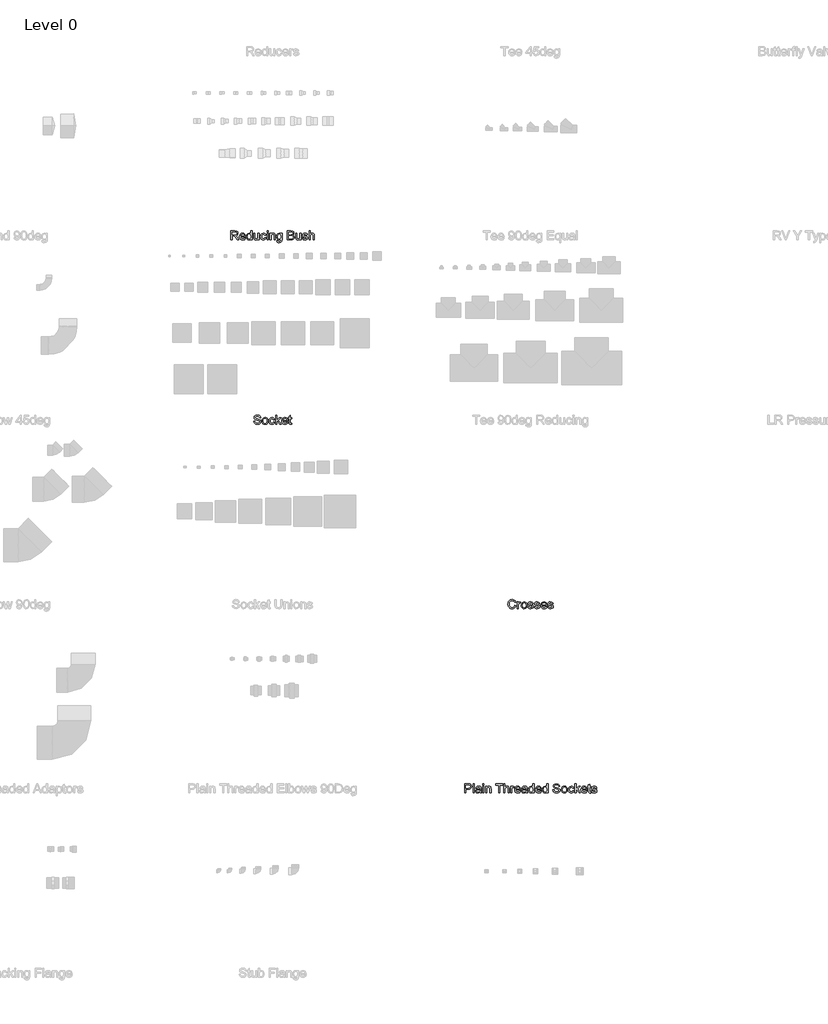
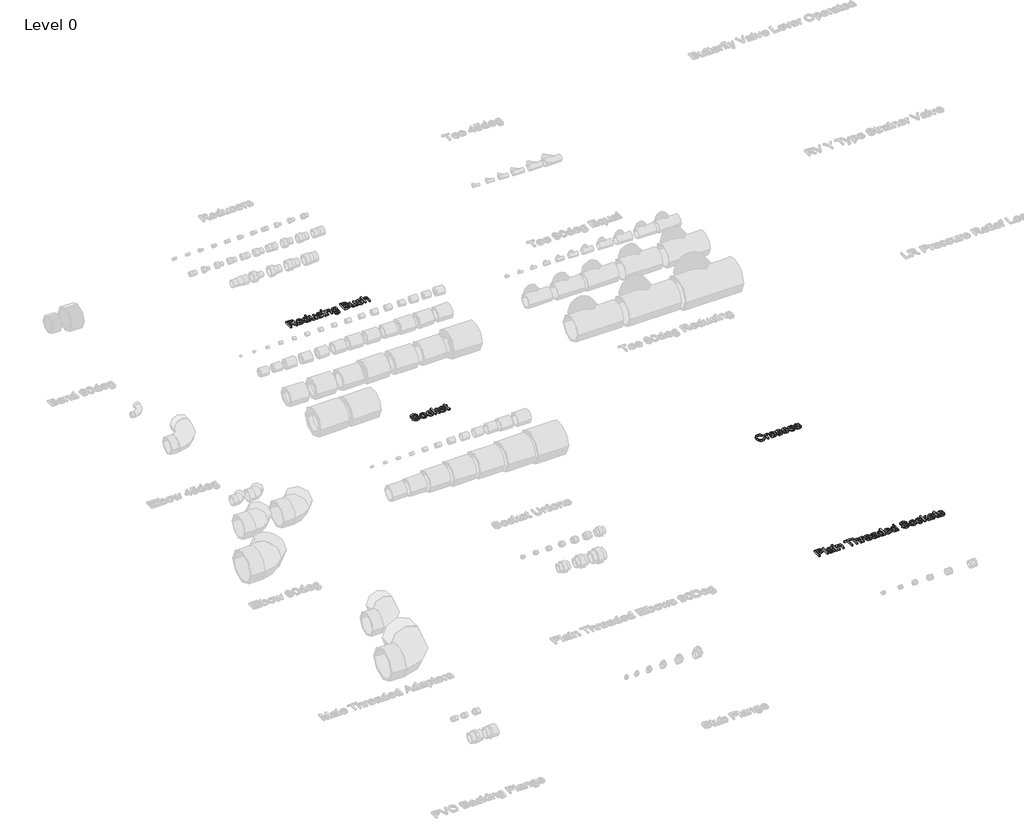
# One storey, part 7 of 12: 4 proxies.
"""IFC4 building model written with IfcOpenShell, lengths in millimetres."""

import ifcopenshell
import ifcopenshell.guid

model = None  # the IFC model being written
_history = None  # IfcOwnerHistory: only IFC2X3 demands one
_inside = {}  # id of a spatial element -> (the spatial element, [elements in it])
_under = {}  # id of a project, library or spatial element -> (it, [spatial elements below it])
_declared = {}  # id of a project -> (the project, [libraries it declares])
_typed = {}  # id of a type object -> (the type object, [elements of that type])
_made_of = {}  # id of a material, layer set ... -> (it, [elements and type objects made of it])


def new_model(schema):
    """Start an empty IFC model of exactly this schema.

    Asked for "IFC4X3", IfcOpenShell would pick the latest addendum, in which some entities
    have other attributes; the version numbers below select the first issue.
    IFC2X3 requires an IfcOwnerHistory on every rooted entity: one is made here for all.
    """
    global model, _history
    if schema == "IFC4X3":
        model = ifcopenshell.file(schema_version=(4, 3, 0, 0))
    else:
        model = ifcopenshell.file(schema=schema)
    _inside.clear()
    _under.clear()
    _declared.clear()
    _typed.clear()
    _made_of.clear()
    _history = None
    if model.schema == "IFC2X3":
        org = make("IfcOrganization", Name="unknown")
        user = make(
            "IfcPersonAndOrganization",
            ThePerson=make("IfcPerson", FamilyName="unknown"),
            TheOrganization=org,
        )
        app = make(
            "IfcApplication",
            ApplicationDeveloper=org,
            Version="unknown",
            ApplicationFullName="unknown",
            ApplicationIdentifier="unknown",
        )
        _history = make(
            "IfcOwnerHistory",
            OwningUser=user,
            OwningApplication=app,
            ChangeAction="ADDED",
            CreationDate=0,
        )
    return model


def make(cls, **values):
    """One entity of the class cls with the attributes given. An attribute that is None is left unset."""
    return model.create_entity(
        cls, **{name: value for name, value in values.items() if value is not None}
    )


def rooted(cls, **values):
    """An entity with a GlobalId (a new one), such as an element, a storey or a relation."""
    return make(cls, GlobalId=ifcopenshell.guid.new(), OwnerHistory=_history, **values)


def si_unit(unit_type, name, prefix=None):
    """IfcSIUnit, for example si_unit("LENGTHUNIT", "METRE", prefix="MILLI")."""
    return make("IfcSIUnit", UnitType=unit_type, Prefix=prefix, Name=name)


def assignment(units):
    """IfcUnitAssignment: the units of a project."""
    return None if units is None else make("IfcUnitAssignment", Units=units)


def point(xyz):
    """IfcCartesianPoint."""
    return None if xyz is None else make("IfcCartesianPoint", Coordinates=xyz)


def direction(xyz):
    """IfcDirection."""
    return None if xyz is None else make("IfcDirection", DirectionRatios=xyz)


def frame(location, z_axis=None, x_axis=None):
    """IfcAxis2Placement3D, a coordinate frame: its origin and axes. An axis left out is left unset."""
    return make(
        "IfcAxis2Placement3D",
        Location=point(location),
        Axis=direction(z_axis),
        RefDirection=direction(x_axis),
    )


def origin():
    """The frame at (0, 0, 0) with its axes left unset."""
    return frame((0.0, 0.0, 0.0))


def origin_with_axes():
    """The frame at (0, 0, 0) with the z axis (0, 0, 1) and the x axis (1, 0, 0) written out."""
    return frame((0.0, 0.0, 0.0), z_axis=(0.0, 0.0, 1.0), x_axis=(1.0, 0.0, 0.0))


def place(relative_to, where):
    """IfcLocalPlacement: puts the frame where relative to a parent placement (None: the world)."""
    return make(
        "IfcLocalPlacement", PlacementRelTo=relative_to, RelativePlacement=where
    )


def context(
    kind, dimensions, precision=None, world=None, true_north=None, identifier=None
):
    """IfcGeometricRepresentationContext, for example the 3D "Model" context."""
    return make(
        "IfcGeometricRepresentationContext",
        ContextIdentifier=identifier,
        ContextType=kind,
        CoordinateSpaceDimension=dimensions,
        Precision=precision,
        WorldCoordinateSystem=world,
        TrueNorth=true_north,
    )


def project(units=None, contexts=None):
    """IfcProject with its units and contexts."""
    return rooted(
        "IfcProject",
        Name="project",
        RepresentationContexts=contexts,
        UnitsInContext=assignment(units),
    )


def spatial(cls, under=None, at=None, **own):
    """A site, building, storey or space (cls), placed at a placement, below another one or the project."""
    s = rooted(cls, ObjectPlacement=at, **own)
    if under is not None:
        _under.setdefault(under.id(), (under, []))[1].append(s)
    return s


def polyline(points):
    """IfcPolyline through the points."""
    return make("IfcPolyline", Points=[point(p) for p in points])


def outline(outer, holes=None, kind="AREA"):
    """IfcArbitraryClosedProfileDef: a profile drawn as a closed curve; with holes, ...WithVoids."""
    if holes is None:
        return make("IfcArbitraryClosedProfileDef", ProfileType=kind, OuterCurve=outer)
    return make(
        "IfcArbitraryProfileDefWithVoids",
        ProfileType=kind,
        OuterCurve=outer,
        InnerCurves=holes,
    )


def extrude(swept, where, along, depth):
    """IfcExtrudedAreaSolid: the profile swept, set in the frame where, extruded along a direction by depth."""
    return make(
        "IfcExtrudedAreaSolid",
        SweptArea=swept,
        Position=where,
        ExtrudedDirection=direction(along),
        Depth=depth,
    )


def shape(context_of_items, identifier, shape_type, items):
    """IfcShapeRepresentation: the items that make up one representation, for example the "Body"."""
    return make(
        "IfcShapeRepresentation",
        ContextOfItems=context_of_items,
        RepresentationIdentifier=identifier,
        RepresentationType=shape_type,
        Items=items,
    )


def made_of(thing, what):
    """Note that an element or type object is made of a material, layer set ...; save() writes the relation."""
    if what is not None:
        _made_of.setdefault(what.id(), (what, []))[1].append(thing)
    return thing


def element(
    cls,
    number,
    at=None,
    inside=None,
    cuts=None,
    type_object=None,
    material=None,
    context=None,
    identifier="Body",
    shape_type=None,
    held_by="IfcProductDefinitionShape",
    body=None,
    shapes=None,
    **own,
):
    """One element of the class cls, such as IfcWall. Its Tag is "e" and its number.

    at: its placement. inside: the storey or other place that contains it. cuts: it is an
    opening in that element (IfcRelVoidsElement). A single representation is given by context,
    identifier, shape_type and body (its items); several are given by shapes. held_by: the class
    of the entity that holds the representations. save() writes the other relations.
    """
    e = rooted(cls, Tag="e%d" % number, ObjectPlacement=at, **own)
    if body is not None:
        shapes = [shape(context, identifier, shape_type, body)]
    if shapes is not None:
        e.Representation = make(held_by, Representations=shapes)
    if inside is not None:
        _inside.setdefault(inside.id(), (inside, []))[1].append(e)
    if cuts is not None:
        rooted(
            "IfcRelVoidsElement", RelatingBuildingElement=cuts, RelatedOpeningElement=e
        )
    if type_object is not None:
        _typed.setdefault(type_object.id(), (type_object, []))[1].append(e)
    return made_of(e, material)


def aggregate(whole, parts):
    """IfcRelAggregates: a whole, such as a stair, and the parts it consists of."""
    return rooted("IfcRelAggregates", RelatingObject=whole, RelatedObjects=parts)


def save(model, path):
    """Write the relations noted so far, then the file.

    IfcRelAggregates (storeys below a building ...), IfcRelContainedInSpatialStructure (elements
    in a storey), IfcRelDefinesByType, IfcRelAssociatesMaterial and IfcRelDeclares: one each for
    every whole, place, type object, material and project.
    """
    for whole, parts in _under.values():
        aggregate(whole, parts)
    for where, things in _inside.values():
        rooted(
            "IfcRelContainedInSpatialStructure",
            RelatedElements=things,
            RelatingStructure=where,
        )
    for kind, things in _typed.values():
        rooted("IfcRelDefinesByType", RelatedObjects=things, RelatingType=kind)
    for what, things in _made_of.values():
        rooted("IfcRelAssociatesMaterial", RelatedObjects=things, RelatingMaterial=what)
    for by, libraries in _declared.values():
        rooted("IfcRelDeclares", RelatingContext=by, RelatedDefinitions=libraries)
    model.write(path)


model = new_model("IFC4")

# Units and contexts
model_context = context("Model", 3, world=origin())
ifc_project = project(units=[si_unit("LENGTHUNIT", "METRE", prefix="MILLI")], contexts=[model_context])

# Site, building, storey
site = spatial("IfcSite", under=ifc_project)
building = spatial("IfcBuilding", under=site)
storey = spatial("IfcBuildingStorey", under=building, Name="Level 0", Elevation=0.0)

# Proxies
placement = place(None, origin())
element("IfcBuildingElementProxy", 1, Name="150mm Arial", ObjectType="150mm Arial", at=placement, inside=storey, context=model_context, shape_type="SweptSolid", body=[
    extrude(outline(polyline([(-13888.7361766, 6945.7253457), (-13888.7361766, 7044.1868842), (-13846.3082919, 7044.1868842), (-13826.6087727, 7041.5306342), (-13815.8395419, 7032.1315957), (-13811.8130996, 7017.2397688), (-13813.4807679, 7007.5402496), (-13818.4837727, 6999.4993842), (-13826.9723544, 6993.6039515), (-13839.0967535, 6990.3407304), (-13832.1015612, 6985.0763073), (-13822.1255996, 6972.408038), (-13805.7073304, 6945.7253457), (-13820.010215, 6945.7253457), (-13832.822715, 6966.1339996), (-13842.0775227, 6979.643615), (-13848.5799266, 6986.0258265), (-13854.4332919, 6988.3695765), (-13861.572715, 6988.8022688), (-13876.4284843, 6988.8022688), (-13876.4284843, 6945.7253457), (-13888.7361766, 6945.7253457)]), holes=[polyline([(-13876.4284843, 7001.1099611), (-13848.8804073, 7001.1099611), (-13834.8299266, 7002.8527496), (-13826.8491573, 7008.4296727), (-13824.1207919, 7016.783038), (-13829.3251189, 7027.6243842), (-13845.7794458, 7031.8791919), (-13876.4284843, 7031.8791919), (-13876.4284843, 7001.1099611)])]), origin_with_axes(), (0.0, 0.0, 1.0), 15.0),
    extrude(outline(polyline([(-13741.1880996, 6967.2638073), (-13729.1207919, 6965.7253457), (-13733.4687487, 6956.6327977), (-13740.4068496, 6949.8359227), (-13749.7788448, 6945.5991438), (-13761.4284843, 6944.1868842), (-13775.86959, 6946.6237832), (-13786.9813689, 6953.9344804), (-13794.0667054, 6965.6442159), (-13796.4284843, 6981.2782304), (-13794.0426669, 6997.4380861), (-13786.885215, 7009.5234227), (-13775.9236766, 7017.0594804), (-13762.1255996, 7019.5714996), (-13748.7572102, 7017.06549), (-13738.0751189, 7009.5474611), (-13731.0709121, 6997.486163), (-13728.7361766, 6981.3503457), (-13728.8082919, 6978.033038), (-13784.1207919, 6978.033038), (-13781.9903833, 6968.8202977), (-13777.041465, 6962.0474611), (-13761.1880996, 6956.4945765), (-13749.1207919, 6959.0666919), (-13741.1880996, 6967.2638073)]), holes=[polyline([(-13784.1207919, 6990.3407304), (-13741.0438689, 6990.3407304), (-13745.9717535, 7001.4945765), (-13753.1472343, 7005.8214996), (-13762.1736766, 7007.2638073), (-13777.3299266, 7002.6604419), (-13784.1207919, 6990.3407304)])]), origin_with_axes(), (0.0, 0.0, 1.0), 15.0),
    extrude(outline(polyline([(-13671.8130996, 6945.7253457), (-13671.8130996, 6957.3359227), (-13679.9561285, 6947.4741438), (-13691.2121381, 6944.1868842), (-13706.4525227, 6948.9464996), (-13717.2217535, 6962.2277496), (-13721.0438689, 6981.8070765), (-13717.5222343, 7001.3984227), (-13706.9693496, 7014.8839996), (-13691.260215, 7019.5714996), (-13679.9140612, 7016.2181342), (-13671.8130996, 7007.5041919), (-13671.8130996, 7044.1868842), (-13659.5054073, 7044.1868842), (-13659.5054073, 6945.7253457), (-13671.8130996, 6945.7253457)]), holes=[polyline([(-13708.7361766, 6981.8551534), (-13707.3479554, 6970.7223409), (-13703.1832919, 6962.8046727), (-13697.1316093, 6958.0721005), (-13690.0823304, 6956.4945765), (-13683.0360564, 6957.9999852), (-13677.1376189, 6962.5162111), (-13673.1442294, 6970.127389), (-13671.8130996, 6980.9176534), (-13673.1682679, 6992.7145284), (-13677.2337727, 7000.893615), (-13683.2824506, 7005.6712592), (-13690.5871381, 7007.2638073), (-13697.7085323, 7005.7343602), (-13703.5438689, 7001.1460188), (-13707.4380996, 6993.2644082), (-13708.7361766, 6981.8551534)])]), origin_with_axes(), (0.0, 0.0, 1.0), 15.0),
    extrude(outline(polyline([(-13594.8900227, 6945.7253457), (-13594.8900227, 6958.1532304), (-13604.5294458, 6947.6784707), (-13617.1015612, 6944.1868842), (-13628.6760804, 6946.6388073), (-13636.6568496, 6952.7926534), (-13640.322715, 6961.8551534), (-13641.0438689, 6973.2974611), (-13641.0438689, 7018.033038), (-13628.7361766, 7018.033038), (-13628.7361766, 6979.0907304), (-13627.9909843, 6966.5426534), (-13623.1231958, 6959.174865), (-13613.9525227, 6956.4945765), (-13603.6760804, 6959.2349611), (-13596.885215, 6966.6989034), (-13594.8900227, 6980.4128457), (-13594.8900227, 7018.033038), (-13582.5823304, 7018.033038), (-13582.5823304, 6945.7253457), (-13594.8900227, 6945.7253457)])), origin_with_axes(), (0.0, 0.0, 1.0), 15.0),
    extrude(outline(polyline([(-13519.5054073, 6971.8791919), (-13507.197715, 6970.3407304), (-13510.6292054, 6959.3942159), (-13517.0775227, 6951.1219804), (-13525.9356958, 6945.9206582), (-13536.5967535, 6944.1868842), (-13549.6887006, 6946.6057544), (-13559.9260804, 6953.862365), (-13566.5336525, 6965.6382063), (-13568.7361766, 6981.6147688), (-13564.9741573, 7002.0594804), (-13553.5078112, 7015.1964996), (-13536.7650227, 7019.5714996), (-13526.3653833, 7018.0690957), (-13518.0510804, 7013.5618842), (-13512.0865371, 7006.2902496), (-13508.7361766, 6996.4945765), (-13521.0438689, 6994.956115), (-13526.7530035, 7004.174865), (-13536.6688689, 7007.2638073), (-13544.6225948, 7005.7433746), (-13550.9356958, 7001.1820765), (-13555.0552871, 6993.3335188), (-13556.4284843, 6981.9513073), (-13555.0853352, 6970.4158505), (-13551.0558881, 6962.5402496), (-13544.8569698, 6958.0059948), (-13537.0054073, 6956.4945765), (-13525.4068496, 6960.268615), (-13519.5054073, 6971.8791919)])), origin_with_axes(), (0.0, 0.0, 1.0), 15.0),
    extrude(outline(polyline([(-13496.4284843, 7031.8791919), (-13496.4284843, 7044.1868842), (-13484.1207919, 7044.1868842), (-13484.1207919, 7031.8791919), (-13496.4284843, 7031.8791919)])), origin_with_axes(), (0.0, 0.0, 1.0), 15.0),
    extrude(outline(polyline([(-13496.4284843, 6945.7253457), (-13496.4284843, 7018.033038), (-13484.1207919, 7018.033038), (-13484.1207919, 6945.7253457), (-13496.4284843, 6945.7253457)])), origin_with_axes(), (0.0, 0.0, 1.0), 15.0),
    extrude(outline(polyline([(-13465.6592535, 6945.7253457), (-13465.6592535, 7018.033038), (-13453.3515612, 7018.033038), (-13453.3515612, 7007.9368842), (-13443.9405035, 7016.6628457), (-13431.0919458, 7019.5714996), (-13419.4693496, 7017.2277496), (-13411.5366573, 7011.0739034), (-13407.8467535, 7002.0234227), (-13407.197715, 6990.1243842), (-13407.197715, 6945.7253457), (-13419.5054073, 6945.7253457), (-13419.5054073, 6988.4657304), (-13420.9236766, 6999.3551534), (-13425.9356958, 7005.112365), (-13434.385215, 7007.2638073), (-13447.7385804, 7002.4320765), (-13451.948316, 6995.4308746), (-13453.3515612, 6984.0907304), (-13453.3515612, 6945.7253457), (-13465.6592535, 6945.7253457)])), origin_with_axes(), (0.0, 0.0, 1.0), 15.0),
    extrude(outline(polyline([(-13393.3515612, 6939.5714996), (-13381.0438689, 6938.033038), (-13377.0534843, 6931.5426534), (-13365.1063689, 6928.8022688), (-13352.510215, 6931.9032304), (-13346.5005996, 6940.6051534), (-13345.6592535, 6954.956115), (-13354.3251189, 6948.033038), (-13364.8900227, 6945.7253457), (-13377.5793256, 6948.4116438), (-13387.041465, 6956.470538), (-13392.9278833, 6968.2854419), (-13394.8900227, 6982.2397688), (-13391.3683881, 7001.314288), (-13381.1760804, 7014.8118842), (-13365.4909843, 7019.5714996), (-13354.5114169, 7016.8791919), (-13345.6592535, 7008.8022688), (-13345.6592535, 7018.033038), (-13333.3515612, 7018.033038), (-13333.3515612, 6955.6051534), (-13336.7169458, 6931.6989034), (-13347.3780035, 6920.581115), (-13365.3467535, 6916.4945765), (-13376.7980756, 6917.9338794), (-13385.8155035, 6922.251788), (-13391.5997583, 6929.4603217), (-13393.3515612, 6939.5714996)]), holes=[polyline([(-13382.5823304, 6983.081115), (-13381.2692294, 6971.7920525), (-13377.3299266, 6964.0306342), (-13371.4074506, 6959.5324371), (-13364.1448304, 6958.033038), (-13356.9362968, 6959.5234227), (-13350.9837727, 6963.9945765), (-13346.9903833, 6971.6568361), (-13345.6592535, 6982.720538), (-13347.0294458, 6993.3906102), (-13351.1400227, 7001.0739034), (-13357.1796862, 7005.7163313), (-13364.3371381, 7007.2638073), (-13371.3653833, 7005.7403698), (-13377.2578112, 7001.1700573), (-13381.2512006, 6993.6009467), (-13382.5823304, 6983.081115)])]), origin_with_axes(), (0.0, 0.0, 1.0), 15.0),
    extrude(outline(polyline([(-13274.8900227, 6945.7253457), (-13274.8900227, 7044.1868842), (-13237.3179073, 7044.1868842), (-13218.916465, 7041.2902496), (-13208.0510804, 7032.3839996), (-13204.1207919, 7019.7878457), (-13207.4260804, 7008.2854419), (-13217.4140612, 6999.5714996), (-13205.2866573, 6990.3888073), (-13201.0438689, 6975.0763073), (-13203.9405035, 6961.8431342), (-13211.1159843, 6952.4200573), (-13221.8251189, 6947.4200573), (-13237.6063689, 6945.7253457), (-13274.8900227, 6945.7253457)]), holes=[polyline([(-13262.5823304, 7004.1868842), (-13240.1063689, 7004.1868842), (-13226.9813689, 7005.2445765), (-13219.0847343, 7009.799865), (-13216.4284843, 7017.8166919), (-13218.9044458, 7025.845538), (-13225.9957919, 7030.5931342), (-13241.8130996, 7031.8791919), (-13262.5823304, 7031.8791919), (-13262.5823304, 7004.1868842)]), polyline([(-13262.5823304, 6958.033038), (-13237.3419458, 6958.033038), (-13228.2073304, 6958.5138073), (-13220.478965, 6961.1940957), (-13215.3587727, 6966.6628457), (-13213.3515612, 6974.956115), (-13215.7073304, 6984.5234227), (-13223.3395419, 6990.2325573), (-13238.5438689, 6991.8791919), (-13262.5823304, 6991.8791919), (-13262.5823304, 6958.033038)])]), origin_with_axes(), (0.0, 0.0, 1.0), 15.0),
    extrude(outline(polyline([(-13139.5054073, 6945.7253457), (-13139.5054073, 6958.1532304), (-13149.1448304, 6947.6784707), (-13161.7169458, 6944.1868842), (-13173.291465, 6946.6388073), (-13181.2722343, 6952.7926534), (-13184.9380996, 6961.8551534), (-13185.6592535, 6973.2974611), (-13185.6592535, 7018.033038), (-13173.3515612, 7018.033038), (-13173.3515612, 6979.0907304), (-13172.6063689, 6966.5426534), (-13167.7385804, 6959.174865), (-13158.5679073, 6956.4945765), (-13148.291465, 6959.2349611), (-13141.5005996, 6966.6989034), (-13139.5054073, 6980.4128457), (-13139.5054073, 7018.033038), (-13127.197715, 7018.033038), (-13127.197715, 6945.7253457), (-13139.5054073, 6945.7253457)])), origin_with_axes(), (0.0, 0.0, 1.0), 15.0),
    extrude(outline(polyline([(-13114.8900227, 6967.2638073), (-13102.5823304, 6968.8022688), (-13096.885215, 6959.6676534), (-13083.8323304, 6956.4945765), (-13071.2842535, 6959.4032304), (-13067.197715, 6966.2301534), (-13071.3082919, 6971.7589996), (-13083.9765612, 6975.268615), (-13102.510215, 6981.2902496), (-13110.5991573, 6988.3214996), (-13113.3515612, 6998.2493842), (-13111.1400227, 7007.4200573), (-13105.1063689, 7014.4272688), (-13097.2818496, 7018.0690957), (-13086.6929073, 7019.5714996), (-13071.7169458, 7017.1556342), (-13062.197715, 7010.6171727), (-13057.9669458, 6999.5714996), (-13070.2746381, 6998.033038), (-13074.9020419, 7004.8239034), (-13085.7313689, 7007.2638073), (-13097.510215, 7004.9320765), (-13101.0438689, 6999.4993842), (-13099.5775227, 6995.9176534), (-13094.9861766, 6993.2013073), (-13084.385215, 6990.581115), (-13066.3203112, 6984.7878457), (-13057.9308881, 6978.2253457), (-13054.8900227, 6967.5282304), (-13058.4597343, 6955.7493842), (-13068.760215, 6947.2037111), (-13084.0005996, 6944.1868842), (-13096.4104554, 6945.6412111), (-13105.4669458, 6950.0041919), (-13111.5126189, 6957.2277496), (-13114.8900227, 6967.2638073)])), origin_with_axes(), (0.0, 0.0, 1.0), 15.0),
    extrude(outline(polyline([(-13041.0438689, 6945.7253457), (-13041.0438689, 7044.1868842), (-13028.7361766, 7044.1868842), (-13028.7361766, 7007.9849611), (-13019.1388208, 7016.674865), (-13007.3179073, 7019.5714996), (-12993.4957919, 7016.4104419), (-12985.1063689, 7007.6724611), (-12982.5823304, 6991.4945765), (-12982.5823304, 6945.7253457), (-12994.8900227, 6945.7253457), (-12994.8900227, 6990.220538), (-12998.8082919, 7003.2013073), (-13009.9140612, 7007.2638073), (-13019.9981958, 7004.5234227), (-13026.728965, 6997.095538), (-13028.7361766, 6984.1388073), (-13028.7361766, 6945.7253457), (-13041.0438689, 6945.7253457)])), origin_with_axes(), (0.0, 0.0, 1.0), 15.0),
])
element("IfcBuildingElementProxy", 2, Name="150mm Arial", ObjectType="150mm Arial", at=placement, inside=storey, context=model_context, shape_type="SweptSolid", body=[
    extrude(outline(polyline([(-13640.2746381, 4979.5714996), (-13627.9669458, 4979.5714996), (-13624.0005996, 4967.251788), (-13614.3130996, 4959.4633265), (-13599.5534843, 4956.4945765), (-13586.6929073, 4958.7421727), (-13578.3876189, 4964.9200573), (-13575.6592535, 4973.1772688), (-13577.7025227, 4980.8575573), (-13586.0679073, 4986.4464996), (-13603.9885804, 4991.1460188), (-13623.2794458, 4997.2157304), (-13633.7481958, 5006.3743842), (-13637.197715, 5018.6099611), (-13632.9308881, 5032.5402496), (-13620.4669458, 5042.3719804), (-13602.2217535, 5045.7253457), (-13582.7505996, 5042.2157304), (-13569.7698304, 5031.9032304), (-13564.8900227, 5016.4945765), (-13577.197715, 5016.4945765), (-13584.1688689, 5029.1388073), (-13601.7409843, 5033.4176534), (-13619.3611766, 5029.1868842), (-13624.8900227, 5018.970538), (-13620.9717535, 5010.4368842), (-13600.8755996, 5003.5618842), (-13579.0967535, 4997.3839996), (-13567.1856958, 4987.408038), (-13563.3515612, 4973.4897688), (-13567.7626189, 4958.7662111), (-13580.4549266, 4948.0210188), (-13599.072715, 4944.1868842), (-13621.0558881, 4948.3214996), (-13634.9621381, 4960.7734227), (-13640.2746381, 4979.5714996)])), origin_with_axes(), (0.0, 0.0, 1.0), 15.0),
    extrude(outline(polyline([(-13549.5054073, 4981.8791919), (-13546.8431477, 4999.3130861), (-13538.8563689, 5011.5666919), (-13528.9885804, 5017.5702977), (-13517.1736766, 5019.5714996), (-13504.2439891, 5017.1346005), (-13493.916465, 5009.8239034), (-13487.1466333, 4998.2163313), (-13484.8900227, 4982.8888073), (-13488.8804073, 4960.9897688), (-13500.5030035, 4948.5979419), (-13517.1736766, 4944.1868842), (-13530.2596141, 4946.6147688), (-13540.5751189, 4953.8984227), (-13547.2728352, 4965.7493842), (-13549.5054073, 4981.8791919)]), holes=[polyline([(-13537.197715, 4981.9032304), (-13535.7734362, 4970.7644082), (-13531.5005996, 4962.8287111), (-13525.0703112, 4958.0781102), (-13517.1736766, 4956.4945765), (-13509.3130996, 4958.0871246), (-13502.8948304, 4962.8647688), (-13498.6219939, 4970.9056342), (-13497.197715, 4982.2878457), (-13498.6310083, 4993.1021486), (-13502.9308881, 5000.9296727), (-13509.3581718, 5005.6802736), (-13517.1736766, 5007.2638073), (-13525.0703112, 5005.6862832), (-13531.5005996, 5000.9537111), (-13535.7734362, 4993.0360429), (-13537.197715, 4981.9032304)])]), origin_with_axes(), (0.0, 0.0, 1.0), 15.0),
    extrude(outline(polyline([(-13424.8900227, 4971.8791919), (-13412.5823304, 4970.3407304), (-13416.0138208, 4959.3942159), (-13422.4621381, 4951.1219804), (-13431.3203112, 4945.9206582), (-13441.9813689, 4944.1868842), (-13455.073316, 4946.6057544), (-13465.3106958, 4953.862365), (-13471.9182679, 4965.6382063), (-13474.1207919, 4981.6147688), (-13470.3587727, 5002.0594804), (-13458.8924266, 5015.1964996), (-13442.1496381, 5019.5714996), (-13431.7499987, 5018.0690957), (-13423.4356958, 5013.5618842), (-13417.4711525, 5006.2902496), (-13414.1207919, 4996.4945765), (-13426.4284843, 4994.956115), (-13432.1376189, 5004.174865), (-13442.0534843, 5007.2638073), (-13450.0072102, 5005.7433746), (-13456.3203112, 5001.1820765), (-13460.4399025, 4993.3335188), (-13461.8130996, 4981.9513073), (-13460.4699506, 4970.4158505), (-13456.4405035, 4962.5402496), (-13450.2415852, 4958.0059948), (-13442.3900227, 4956.4945765), (-13430.791465, 4960.268615), (-13424.8900227, 4971.8791919)])), origin_with_axes(), (0.0, 0.0, 1.0), 15.0),
    extrude(outline(polyline([(-13401.8130996, 4945.7253457), (-13401.8130996, 5044.1868842), (-13389.5054073, 5044.1868842), (-13389.5054073, 4991.2782304), (-13361.9092535, 5018.033038), (-13344.8900227, 5018.033038), (-13372.822715, 4990.9416919), (-13343.3515612, 4945.7253457), (-13357.7265612, 4945.7253457), (-13381.6448304, 4982.3839996), (-13389.5054073, 4974.7638073), (-13389.5054073, 4945.7253457), (-13401.8130996, 4945.7253457)])), origin_with_axes(), (0.0, 0.0, 1.0), 15.0),
    extrude(outline(polyline([(-13281.9573304, 4967.2638073), (-13269.8900227, 4965.7253457), (-13274.2379794, 4956.6327977), (-13281.1760804, 4949.8359227), (-13290.5480756, 4945.5991438), (-13302.197715, 4944.1868842), (-13316.6388208, 4946.6237832), (-13327.7505996, 4953.9344804), (-13334.8359362, 4965.6442159), (-13337.197715, 4981.2782304), (-13334.8118977, 4997.4380861), (-13327.6544458, 5009.5234227), (-13316.6929073, 5017.0594804), (-13302.8948304, 5019.5714996), (-13289.526441, 5017.06549), (-13278.8443496, 5009.5474611), (-13271.8401429, 4997.486163), (-13269.5054073, 4981.3503457), (-13269.5775227, 4978.033038), (-13324.8900227, 4978.033038), (-13322.7596141, 4968.8202977), (-13317.8106958, 4962.0474611), (-13301.9573304, 4956.4945765), (-13289.8900227, 4959.0666919), (-13281.9573304, 4967.2638073)]), holes=[polyline([(-13324.8900227, 4990.3407304), (-13281.8130996, 4990.3407304), (-13286.7409843, 5001.4945765), (-13293.916465, 5005.8214996), (-13302.9429073, 5007.2638073), (-13318.0991573, 5002.6604419), (-13324.8900227, 4990.3407304)])]), origin_with_axes(), (0.0, 0.0, 1.0), 15.0),
    extrude(outline(polyline([(-13231.0438689, 4955.9897688), (-13229.5054073, 4945.3647688), (-13238.7121381, 4944.1868842), (-13249.0246381, 4946.2301534), (-13254.1688689, 4951.5907304), (-13255.6592535, 4965.5570765), (-13255.6592535, 5005.7253457), (-13264.8900227, 5005.7253457), (-13264.8900227, 5018.033038), (-13255.6592535, 5018.033038), (-13255.6592535, 5035.6051534), (-13243.3515612, 5042.8407304), (-13243.3515612, 5018.033038), (-13231.0438689, 5018.033038), (-13231.0438689, 5005.7253457), (-13243.3515612, 5005.7253457), (-13243.3515612, 4965.9176534), (-13242.7025227, 4959.5714996), (-13240.5991573, 4957.3239034), (-13236.4044458, 4956.4945765), (-13231.0438689, 4955.9897688)])), origin_with_axes(), (0.0, 0.0, 1.0), 15.0),
])
element("IfcBuildingElementProxy", 3, Name="150mm Arial", ObjectType="150mm Arial", at=placement, inside=storey, context=model_context, shape_type="SweptSolid", body=[
    extrude(outline(polyline([(-10808.7361766, 2980.7253457), (-10796.4284843, 2977.5522688), (-10802.1075708, 2963.2103217), (-10811.0198304, 2952.7325573), (-10822.7265612, 2946.3233025), (-10836.7890612, 2944.1868842), (-10851.0649025, 2945.8034707), (-10862.4020419, 2950.6532304), (-10871.0919458, 2958.5678938), (-10877.4260804, 2969.3791919), (-10882.5823304, 2995.7013073), (-10881.1249987, 3010.0582784), (-10876.7530035, 3022.456115), (-10869.6947102, 3032.5011871), (-10860.1784843, 3039.799865), (-10836.5246381, 3045.7253457), (-10823.0300468, 3043.8082784), (-10811.8731958, 3038.0570765), (-10803.4026429, 3028.8263073), (-10797.9669458, 3016.470538), (-10810.2746381, 3013.5378457), (-10820.3707919, 3028.6700573), (-10837.0054073, 3033.4176534), (-10856.260215, 3028.1532304), (-10867.1376189, 3014.018615), (-10870.2746381, 2995.7253457), (-10866.5606958, 2974.5234227), (-10854.9981958, 2960.9777496), (-10838.0150227, 2956.4945765), (-10827.7415852, 2958.0210188), (-10819.1808881, 2962.6003457), (-10812.7175468, 2970.1844804), (-10808.7361766, 2980.7253457)])), origin_with_axes(), (0.0, 0.0, 1.0), 15.0),
    extrude(outline(polyline([(-10781.0438689, 2945.7253457), (-10781.0438689, 3018.033038), (-10770.2746381, 3018.033038), (-10770.2746381, 3007.3359227), (-10762.6304073, 3017.1916919), (-10754.9380996, 3019.5714996), (-10742.5823304, 3015.7734227), (-10746.6929073, 3004.7397688), (-10755.3467535, 3007.2638073), (-10762.3058881, 3004.8359227), (-10766.7409843, 2998.1051534), (-10768.7361766, 2983.7301534), (-10768.7361766, 2945.7253457), (-10781.0438689, 2945.7253457)])), origin_with_axes(), (0.0, 0.0, 1.0), 15.0),
    extrude(outline(polyline([(-10737.9669458, 2981.8791919), (-10735.3046862, 2999.3130861), (-10727.3179073, 3011.5666919), (-10717.4501189, 3017.5702977), (-10705.635215, 3019.5714996), (-10692.7055275, 3017.1346005), (-10682.3780035, 3009.8239034), (-10675.6081718, 2998.2163313), (-10673.3515612, 2982.8888073), (-10677.3419458, 2960.9897688), (-10688.9645419, 2948.5979419), (-10705.635215, 2944.1868842), (-10718.7211525, 2946.6147688), (-10729.0366573, 2953.8984227), (-10735.7343737, 2965.7493842), (-10737.9669458, 2981.8791919)]), holes=[polyline([(-10725.6592535, 2981.9032304), (-10724.2349746, 2970.7644082), (-10719.9621381, 2962.8287111), (-10713.5318496, 2958.0781102), (-10705.635215, 2956.4945765), (-10697.7746381, 2958.0871246), (-10691.3563689, 2962.8647688), (-10687.0835323, 2970.9056342), (-10685.6592535, 2982.2878457), (-10687.0925468, 2993.1021486), (-10691.3924266, 3000.9296727), (-10697.8197102, 3005.6802736), (-10705.635215, 3007.2638073), (-10713.5318496, 3005.6862832), (-10719.9621381, 3000.9537111), (-10724.2349746, 2993.0360429), (-10725.6592535, 2981.9032304)])]), origin_with_axes(), (0.0, 0.0, 1.0), 15.0),
    extrude(outline(polyline([(-10664.1207919, 2967.2638073), (-10651.8130996, 2968.8022688), (-10646.1159843, 2959.6676534), (-10633.0630996, 2956.4945765), (-10620.5150227, 2959.4032304), (-10616.4284843, 2966.2301534), (-10620.5390612, 2971.7589996), (-10633.2073304, 2975.268615), (-10651.7409843, 2981.2902496), (-10659.8299266, 2988.3214996), (-10662.5823304, 2998.2493842), (-10660.3707919, 3007.4200573), (-10654.3371381, 3014.4272688), (-10646.5126189, 3018.0690957), (-10635.9236766, 3019.5714996), (-10620.947715, 3017.1556342), (-10611.4284843, 3010.6171727), (-10607.197715, 2999.5714996), (-10619.5054073, 2998.033038), (-10624.1328112, 3004.8239034), (-10634.9621381, 3007.2638073), (-10646.7409843, 3004.9320765), (-10650.2746381, 2999.4993842), (-10648.8082919, 2995.9176534), (-10644.2169458, 2993.2013073), (-10633.6159843, 2990.581115), (-10615.5510804, 2984.7878457), (-10607.1616573, 2978.2253457), (-10604.1207919, 2967.5282304), (-10607.6905035, 2955.7493842), (-10617.9909843, 2947.2037111), (-10633.2313689, 2944.1868842), (-10645.6412246, 2945.6412111), (-10654.697715, 2950.0041919), (-10660.7433881, 2957.2277496), (-10664.1207919, 2967.2638073)])), origin_with_axes(), (0.0, 0.0, 1.0), 15.0),
    extrude(outline(polyline([(-10594.8900227, 2967.2638073), (-10582.5823304, 2968.8022688), (-10576.885215, 2959.6676534), (-10563.8323304, 2956.4945765), (-10551.2842535, 2959.4032304), (-10547.197715, 2966.2301534), (-10551.3082919, 2971.7589996), (-10563.9765612, 2975.268615), (-10582.510215, 2981.2902496), (-10590.5991573, 2988.3214996), (-10593.3515612, 2998.2493842), (-10591.1400227, 3007.4200573), (-10585.1063689, 3014.4272688), (-10577.2818496, 3018.0690957), (-10566.6929073, 3019.5714996), (-10551.7169458, 3017.1556342), (-10542.197715, 3010.6171727), (-10537.9669458, 2999.5714996), (-10550.2746381, 2998.033038), (-10554.9020419, 3004.8239034), (-10565.7313689, 3007.2638073), (-10577.510215, 3004.9320765), (-10581.0438689, 2999.4993842), (-10579.5775227, 2995.9176534), (-10574.9861766, 2993.2013073), (-10564.385215, 2990.581115), (-10546.3203112, 2984.7878457), (-10537.9308881, 2978.2253457), (-10534.8900227, 2967.5282304), (-10538.4597343, 2955.7493842), (-10548.760215, 2947.2037111), (-10564.0005996, 2944.1868842), (-10576.4104554, 2945.6412111), (-10585.4669458, 2950.0041919), (-10591.5126189, 2957.2277496), (-10594.8900227, 2967.2638073)])), origin_with_axes(), (0.0, 0.0, 1.0), 15.0),
    extrude(outline(polyline([(-10470.4188689, 2967.2638073), (-10458.3515612, 2965.7253457), (-10462.6995179, 2956.6327977), (-10469.6376189, 2949.8359227), (-10479.0096141, 2945.5991438), (-10490.6592535, 2944.1868842), (-10505.1003593, 2946.6237832), (-10516.2121381, 2953.9344804), (-10523.2974746, 2965.6442159), (-10525.6592535, 2981.2782304), (-10523.2734362, 2997.4380861), (-10516.1159843, 3009.5234227), (-10505.1544458, 3017.0594804), (-10491.3563689, 3019.5714996), (-10477.9879794, 3017.06549), (-10467.3058881, 3009.5474611), (-10460.3016814, 2997.486163), (-10457.9669458, 2981.3503457), (-10458.0390612, 2978.033038), (-10513.3515612, 2978.033038), (-10511.2211525, 2968.8202977), (-10506.2722343, 2962.0474611), (-10490.4188689, 2956.4945765), (-10478.3515612, 2959.0666919), (-10470.4188689, 2967.2638073)]), holes=[polyline([(-10513.3515612, 2990.3407304), (-10470.2746381, 2990.3407304), (-10475.2025227, 3001.4945765), (-10482.3780035, 3005.8214996), (-10491.4044458, 3007.2638073), (-10506.5606958, 3002.6604419), (-10513.3515612, 2990.3407304)])]), origin_with_axes(), (0.0, 0.0, 1.0), 15.0),
    extrude(outline(polyline([(-10450.2746381, 2967.2638073), (-10437.9669458, 2968.8022688), (-10432.2698304, 2959.6676534), (-10419.2169458, 2956.4945765), (-10406.6688689, 2959.4032304), (-10402.5823304, 2966.2301534), (-10406.6929073, 2971.7589996), (-10419.3611766, 2975.268615), (-10437.8948304, 2981.2902496), (-10445.9837727, 2988.3214996), (-10448.7361766, 2998.2493842), (-10446.5246381, 3007.4200573), (-10440.4909843, 3014.4272688), (-10432.666465, 3018.0690957), (-10422.0775227, 3019.5714996), (-10407.1015612, 3017.1556342), (-10397.5823304, 3010.6171727), (-10393.3515612, 2999.5714996), (-10405.6592535, 2998.033038), (-10410.2866573, 3004.8239034), (-10421.1159843, 3007.2638073), (-10432.8948304, 3004.9320765), (-10436.4284843, 2999.4993842), (-10434.9621381, 2995.9176534), (-10430.3707919, 2993.2013073), (-10419.7698304, 2990.581115), (-10401.7049266, 2984.7878457), (-10393.3155035, 2978.2253457), (-10390.2746381, 2967.5282304), (-10393.8443496, 2955.7493842), (-10404.1448304, 2947.2037111), (-10419.385215, 2944.1868842), (-10431.7950708, 2945.6412111), (-10440.8515612, 2950.0041919), (-10446.8972343, 2957.2277496), (-10450.2746381, 2967.2638073)])), origin_with_axes(), (0.0, 0.0, 1.0), 15.0),
])
element("IfcBuildingElementProxy", 4, Name="150mm Arial", ObjectType="150mm Arial", at=placement, inside=storey, context=model_context, shape_type="SweptSolid", body=[
    extrude(outline(polyline([(-11351.0438689, 945.7253457), (-11351.0438689, 1044.1868842), (-11314.5534843, 1044.1868842), (-11299.8419458, 1043.2493842), (-11287.8828112, 1038.6460188), (-11280.1304073, 1029.126788), (-11277.197715, 1015.7013073), (-11279.1778833, 1004.09674), (-11285.1183881, 994.4272688), (-11296.2271621, 987.9008265), (-11313.7121381, 985.7253457), (-11338.7361766, 985.7253457), (-11338.7361766, 945.7253457), (-11351.0438689, 945.7253457)]), holes=[polyline([(-11338.7361766, 998.033038), (-11312.9909843, 998.033038), (-11294.8659843, 1002.5522688), (-11290.8455516, 1007.9909707), (-11289.5054073, 1015.268615), (-11292.666465, 1025.4609227), (-11300.9717535, 1031.0378457), (-11313.2794458, 1031.8791919), (-11338.7361766, 1031.8791919), (-11338.7361766, 998.033038)])]), origin_with_axes(), (0.0, 0.0, 1.0), 15.0),
    extrude(outline(polyline([(-11261.8130996, 945.7253457), (-11261.8130996, 1044.1868842), (-11249.5054073, 1044.1868842), (-11249.5054073, 945.7253457), (-11261.8130996, 945.7253457)])), origin_with_axes(), (0.0, 0.0, 1.0), 15.0),
    extrude(outline(polyline([(-11184.8900227, 954.956115), (-11196.8251189, 946.6147688), (-11210.010215, 944.1868842), (-11220.2956718, 945.6472207), (-11227.8828112, 950.0282304), (-11232.5612968, 956.6808746), (-11234.1207919, 964.956115), (-11231.7650227, 974.6916919), (-11225.5751189, 981.7589996), (-11216.9573304, 985.7974611), (-11206.3082919, 987.6484227), (-11184.9621381, 991.8791919), (-11184.8900227, 994.6195765), (-11188.2794458, 1003.706115), (-11201.885215, 1007.2638073), (-11214.3371381, 1004.8960188), (-11220.2746381, 996.4945765), (-11232.5823304, 998.033038), (-11227.2578112, 1010.0522688), (-11216.5366573, 1017.095538), (-11200.2986766, 1019.5714996), (-11185.3828112, 1017.3839996), (-11176.9573304, 1011.8912111), (-11173.1832919, 1003.5378457), (-11172.5823304, 992.768615), (-11172.5823304, 977.456115), (-11171.9573304, 956.0739034), (-11169.5054073, 945.7253457), (-11181.8130996, 945.7253457), (-11184.8900227, 954.956115)]), holes=[polyline([(-11184.8900227, 979.5714996), (-11204.7457919, 975.7974611), (-11215.3347343, 973.8022688), (-11220.1304073, 970.5570765), (-11221.8130996, 965.8214996), (-11218.1472343, 959.1628457), (-11207.3900227, 956.4945765), (-11194.9380996, 959.439288), (-11186.9092535, 966.5666919), (-11184.9621381, 976.0859227), (-11184.8900227, 979.5714996)])]), origin_with_axes(), (0.0, 0.0, 1.0), 15.0),
    extrude(outline(polyline([(-11155.6592535, 1031.8791919), (-11155.6592535, 1044.1868842), (-11143.3515612, 1044.1868842), (-11143.3515612, 1031.8791919), (-11155.6592535, 1031.8791919)])), origin_with_axes(), (0.0, 0.0, 1.0), 15.0),
    extrude(outline(polyline([(-11155.6592535, 945.7253457), (-11155.6592535, 1018.033038), (-11143.3515612, 1018.033038), (-11143.3515612, 945.7253457), (-11155.6592535, 945.7253457)])), origin_with_axes(), (0.0, 0.0, 1.0), 15.0),
    extrude(outline(polyline([(-11124.8900227, 945.7253457), (-11124.8900227, 1018.033038), (-11112.5823304, 1018.033038), (-11112.5823304, 1007.9368842), (-11103.1712727, 1016.6628457), (-11090.322715, 1019.5714996), (-11078.7001189, 1017.2277496), (-11070.7674266, 1011.0739034), (-11067.0775227, 1002.0234227), (-11066.4284843, 990.1243842), (-11066.4284843, 945.7253457), (-11078.7361766, 945.7253457), (-11078.7361766, 988.4657304), (-11080.1544458, 999.3551534), (-11085.166465, 1005.112365), (-11093.6159843, 1007.2638073), (-11106.9693496, 1002.4320765), (-11111.1790852, 995.4308746), (-11112.5823304, 984.0907304), (-11112.5823304, 945.7253457), (-11124.8900227, 945.7253457)])), origin_with_axes(), (0.0, 0.0, 1.0), 15.0),
    extrude(outline(polyline([(-10984.8900227, 945.7253457), (-10984.8900227, 1031.8791919), (-11017.197715, 1031.8791919), (-11017.197715, 1044.1868842), (-10940.2746381, 1044.1868842), (-10940.2746381, 1031.8791919), (-10972.5823304, 1031.8791919), (-10972.5823304, 945.7253457), (-10984.8900227, 945.7253457)])), origin_with_axes(), (0.0, 0.0, 1.0), 15.0),
    extrude(outline(polyline([(-10927.9669458, 945.7253457), (-10927.9669458, 1044.1868842), (-10915.6592535, 1044.1868842), (-10915.6592535, 1007.9849611), (-10906.0618977, 1016.674865), (-10894.2409843, 1019.5714996), (-10880.4188689, 1016.4104419), (-10872.0294458, 1007.6724611), (-10869.5054073, 991.4945765), (-10869.5054073, 945.7253457), (-10881.8130996, 945.7253457), (-10881.8130996, 990.220538), (-10885.7313689, 1003.2013073), (-10896.8371381, 1007.2638073), (-10906.9212727, 1004.5234227), (-10913.6520419, 997.095538), (-10915.6592535, 984.1388073), (-10915.6592535, 945.7253457), (-10927.9669458, 945.7253457)])), origin_with_axes(), (0.0, 0.0, 1.0), 15.0),
    extrude(outline(polyline([(-10852.5823304, 945.7253457), (-10852.5823304, 1018.033038), (-10841.8130996, 1018.033038), (-10841.8130996, 1007.3359227), (-10834.1688689, 1017.1916919), (-10826.4765612, 1019.5714996), (-10814.1207919, 1015.7734227), (-10818.2313689, 1004.7397688), (-10826.885215, 1007.2638073), (-10833.8443496, 1004.8359227), (-10838.2794458, 998.1051534), (-10840.2746381, 983.7301534), (-10840.2746381, 945.7253457), (-10852.5823304, 945.7253457)])), origin_with_axes(), (0.0, 0.0, 1.0), 15.0),
    extrude(outline(polyline([(-10755.8034843, 967.2638073), (-10743.7361766, 965.7253457), (-10748.0841333, 956.6327977), (-10755.0222343, 949.8359227), (-10764.3942294, 945.5991438), (-10776.0438689, 944.1868842), (-10790.4849746, 946.6237832), (-10801.5967535, 953.9344804), (-10808.68209, 965.6442159), (-10811.0438689, 981.2782304), (-10808.6580516, 997.4380861), (-10801.5005996, 1009.5234227), (-10790.5390612, 1017.0594804), (-10776.7409843, 1019.5714996), (-10763.3725948, 1017.06549), (-10752.6905035, 1009.5474611), (-10745.6862968, 997.486163), (-10743.3515612, 981.3503457), (-10743.4236766, 978.033038), (-10798.7361766, 978.033038), (-10796.6057679, 968.8202977), (-10791.6568496, 962.0474611), (-10775.8034843, 956.4945765), (-10763.7361766, 959.0666919), (-10755.8034843, 967.2638073)]), holes=[polyline([(-10798.7361766, 990.3407304), (-10755.6592535, 990.3407304), (-10760.5871381, 1001.4945765), (-10767.7626189, 1005.8214996), (-10776.7890612, 1007.2638073), (-10791.9453112, 1002.6604419), (-10798.7361766, 990.3407304)])]), origin_with_axes(), (0.0, 0.0, 1.0), 15.0),
    extrude(outline(polyline([(-10684.8900227, 954.956115), (-10696.8251189, 946.6147688), (-10710.010215, 944.1868842), (-10720.2956718, 945.6472207), (-10727.8828112, 950.0282304), (-10732.5612968, 956.6808746), (-10734.1207919, 964.956115), (-10731.7650227, 974.6916919), (-10725.5751189, 981.7589996), (-10716.9573304, 985.7974611), (-10706.3082919, 987.6484227), (-10684.9621381, 991.8791919), (-10684.8900227, 994.6195765), (-10688.2794458, 1003.706115), (-10701.885215, 1007.2638073), (-10714.3371381, 1004.8960188), (-10720.2746381, 996.4945765), (-10732.5823304, 998.033038), (-10727.2578112, 1010.0522688), (-10716.5366573, 1017.095538), (-10700.2986766, 1019.5714996), (-10685.3828112, 1017.3839996), (-10676.9573304, 1011.8912111), (-10673.1832919, 1003.5378457), (-10672.5823304, 992.768615), (-10672.5823304, 977.456115), (-10671.9573304, 956.0739034), (-10669.5054073, 945.7253457), (-10681.8130996, 945.7253457), (-10684.8900227, 954.956115)]), holes=[polyline([(-10684.8900227, 979.5714996), (-10704.7457919, 975.7974611), (-10715.3347343, 973.8022688), (-10720.1304073, 970.5570765), (-10721.8130996, 965.8214996), (-10718.1472343, 959.1628457), (-10707.3900227, 956.4945765), (-10694.9380996, 959.439288), (-10686.9092535, 966.5666919), (-10684.9621381, 976.0859227), (-10684.8900227, 979.5714996)])]), origin_with_axes(), (0.0, 0.0, 1.0), 15.0),
    extrude(outline(polyline([(-10611.0438689, 945.7253457), (-10611.0438689, 957.3359227), (-10619.1868977, 947.4741438), (-10630.4429073, 944.1868842), (-10645.6832919, 948.9464996), (-10656.4525227, 962.2277496), (-10660.2746381, 981.8070765), (-10656.7530035, 1001.3984227), (-10646.2001189, 1014.8839996), (-10630.4909843, 1019.5714996), (-10619.1448304, 1016.2181342), (-10611.0438689, 1007.5041919), (-10611.0438689, 1044.1868842), (-10598.7361766, 1044.1868842), (-10598.7361766, 945.7253457), (-10611.0438689, 945.7253457)]), holes=[polyline([(-10647.9669458, 981.8551534), (-10646.5787246, 970.7223409), (-10642.4140612, 962.8046727), (-10636.3623785, 958.0721005), (-10629.3130996, 956.4945765), (-10622.2668256, 957.9999852), (-10616.3683881, 962.5162111), (-10612.3749987, 970.127389), (-10611.0438689, 980.9176534), (-10612.3990371, 992.7145284), (-10616.4645419, 1000.893615), (-10622.5132198, 1005.6712592), (-10629.8179073, 1007.2638073), (-10636.9393016, 1005.7343602), (-10642.7746381, 1001.1460188), (-10646.6688689, 993.2644082), (-10647.9669458, 981.8551534)])]), origin_with_axes(), (0.0, 0.0, 1.0), 15.0),
    extrude(outline(polyline([(-10529.6496381, 967.2638073), (-10517.5823304, 965.7253457), (-10521.9302871, 956.6327977), (-10528.8683881, 949.8359227), (-10538.2403833, 945.5991438), (-10549.8900227, 944.1868842), (-10564.3311285, 946.6237832), (-10575.4429073, 953.9344804), (-10582.5282439, 965.6442159), (-10584.8900227, 981.2782304), (-10582.5042054, 997.4380861), (-10575.3467535, 1009.5234227), (-10564.385215, 1017.0594804), (-10550.5871381, 1019.5714996), (-10537.2187487, 1017.06549), (-10526.5366573, 1009.5474611), (-10519.5324506, 997.486163), (-10517.197715, 981.3503457), (-10517.2698304, 978.033038), (-10572.5823304, 978.033038), (-10570.4519218, 968.8202977), (-10565.5030035, 962.0474611), (-10549.6496381, 956.4945765), (-10537.5823304, 959.0666919), (-10529.6496381, 967.2638073)]), holes=[polyline([(-10572.5823304, 990.3407304), (-10529.5054073, 990.3407304), (-10534.4332919, 1001.4945765), (-10541.6087727, 1005.8214996), (-10550.635215, 1007.2638073), (-10565.791465, 1002.6604419), (-10572.5823304, 990.3407304)])]), origin_with_axes(), (0.0, 0.0, 1.0), 15.0),
    extrude(outline(polyline([(-10460.2746381, 945.7253457), (-10460.2746381, 957.3359227), (-10468.4176669, 947.4741438), (-10479.6736766, 944.1868842), (-10494.9140612, 948.9464996), (-10505.6832919, 962.2277496), (-10509.5054073, 981.8070765), (-10505.9837727, 1001.3984227), (-10495.4308881, 1014.8839996), (-10479.7217535, 1019.5714996), (-10468.3755996, 1016.2181342), (-10460.2746381, 1007.5041919), (-10460.2746381, 1044.1868842), (-10447.9669458, 1044.1868842), (-10447.9669458, 945.7253457), (-10460.2746381, 945.7253457)]), holes=[polyline([(-10497.197715, 981.8551534), (-10495.8094939, 970.7223409), (-10491.6448304, 962.8046727), (-10485.5931477, 958.0721005), (-10478.5438689, 956.4945765), (-10471.4975948, 957.9999852), (-10465.5991573, 962.5162111), (-10461.6057679, 970.127389), (-10460.2746381, 980.9176534), (-10461.6298064, 992.7145284), (-10465.6953112, 1000.893615), (-10471.7439891, 1005.6712592), (-10479.0486766, 1007.2638073), (-10486.1700708, 1005.7343602), (-10492.0054073, 1001.1460188), (-10495.8996381, 993.2644082), (-10497.197715, 981.8551534)])]), origin_with_axes(), (0.0, 0.0, 1.0), 15.0),
    extrude(outline(polyline([(-10394.1207919, 979.5714996), (-10381.8130996, 979.5714996), (-10377.8467535, 967.251788), (-10368.1592535, 959.4633265), (-10353.3996381, 956.4945765), (-10340.5390612, 958.7421727), (-10332.2337727, 964.9200573), (-10329.5054073, 973.1772688), (-10331.5486766, 980.8575573), (-10339.9140612, 986.4464996), (-10357.8347343, 991.1460188), (-10377.1255996, 997.2157304), (-10387.5943496, 1006.3743842), (-10391.0438689, 1018.6099611), (-10386.7770419, 1032.5402496), (-10374.3130996, 1042.3719804), (-10356.0679073, 1045.7253457), (-10336.5967535, 1042.2157304), (-10323.6159843, 1031.9032304), (-10318.7361766, 1016.4945765), (-10331.0438689, 1016.4945765), (-10338.0150227, 1029.1388073), (-10355.5871381, 1033.4176534), (-10373.2073304, 1029.1868842), (-10378.7361766, 1018.970538), (-10374.8179073, 1010.4368842), (-10354.7217535, 1003.5618842), (-10332.9429073, 997.3839996), (-10321.0318496, 987.408038), (-10317.197715, 973.4897688), (-10321.6087727, 958.7662111), (-10334.3010804, 948.0210188), (-10352.9188689, 944.1868842), (-10374.9020419, 948.3214996), (-10388.8082919, 960.7734227), (-10394.1207919, 979.5714996)])), origin_with_axes(), (0.0, 0.0, 1.0), 15.0),
    extrude(outline(polyline([(-10303.3515612, 981.8791919), (-10300.6893016, 999.3130861), (-10292.7025227, 1011.5666919), (-10282.8347343, 1017.5702977), (-10271.0198304, 1019.5714996), (-10258.0901429, 1017.1346005), (-10247.7626189, 1009.8239034), (-10240.9927871, 998.2163313), (-10238.7361766, 982.8888073), (-10242.7265612, 960.9897688), (-10254.3491573, 948.5979419), (-10271.0198304, 944.1868842), (-10284.1057679, 946.6147688), (-10294.4212727, 953.8984227), (-10301.1189891, 965.7493842), (-10303.3515612, 981.8791919)]), holes=[polyline([(-10291.0438689, 981.9032304), (-10289.61959, 970.7644082), (-10285.3467535, 962.8287111), (-10278.916465, 958.0781102), (-10271.0198304, 956.4945765), (-10263.1592535, 958.0871246), (-10256.7409843, 962.8647688), (-10252.4681477, 970.9056342), (-10251.0438689, 982.2878457), (-10252.4771621, 993.1021486), (-10256.7770419, 1000.9296727), (-10263.2043256, 1005.6802736), (-10271.0198304, 1007.2638073), (-10278.916465, 1005.6862832), (-10285.3467535, 1000.9537111), (-10289.61959, 993.0360429), (-10291.0438689, 981.9032304)])]), origin_with_axes(), (0.0, 0.0, 1.0), 15.0),
    extrude(outline(polyline([(-10178.7361766, 971.8791919), (-10166.4284843, 970.3407304), (-10169.8599746, 959.3942159), (-10176.3082919, 951.1219804), (-10185.166465, 945.9206582), (-10195.8275227, 944.1868842), (-10208.9194698, 946.6057544), (-10219.1568496, 953.862365), (-10225.7644218, 965.6382063), (-10227.9669458, 981.6147688), (-10224.2049266, 1002.0594804), (-10212.7385804, 1015.1964996), (-10195.9957919, 1019.5714996), (-10185.5961525, 1018.0690957), (-10177.2818496, 1013.5618842), (-10171.3173064, 1006.2902496), (-10167.9669458, 996.4945765), (-10180.2746381, 994.956115), (-10185.9837727, 1004.174865), (-10195.8996381, 1007.2638073), (-10203.8533641, 1005.7433746), (-10210.166465, 1001.1820765), (-10214.2860564, 993.3335188), (-10215.6592535, 981.9513073), (-10214.3161044, 970.4158505), (-10210.2866573, 962.5402496), (-10204.0877391, 958.0059948), (-10196.2361766, 956.4945765), (-10184.6376189, 960.268615), (-10178.7361766, 971.8791919)])), origin_with_axes(), (0.0, 0.0, 1.0), 15.0),
    extrude(outline(polyline([(-10155.6592535, 945.7253457), (-10155.6592535, 1044.1868842), (-10143.3515612, 1044.1868842), (-10143.3515612, 991.2782304), (-10115.7554073, 1018.033038), (-10098.7361766, 1018.033038), (-10126.6688689, 990.9416919), (-10097.197715, 945.7253457), (-10111.572715, 945.7253457), (-10135.4909843, 982.3839996), (-10143.3515612, 974.7638073), (-10143.3515612, 945.7253457), (-10155.6592535, 945.7253457)])), origin_with_axes(), (0.0, 0.0, 1.0), 15.0),
    extrude(outline(polyline([(-10035.8034843, 967.2638073), (-10023.7361766, 965.7253457), (-10028.0841333, 956.6327977), (-10035.0222343, 949.8359227), (-10044.3942294, 945.5991438), (-10056.0438689, 944.1868842), (-10070.4849746, 946.6237832), (-10081.5967535, 953.9344804), (-10088.68209, 965.6442159), (-10091.0438689, 981.2782304), (-10088.6580516, 997.4380861), (-10081.5005996, 1009.5234227), (-10070.5390612, 1017.0594804), (-10056.7409843, 1019.5714996), (-10043.3725948, 1017.06549), (-10032.6905035, 1009.5474611), (-10025.6862968, 997.486163), (-10023.3515612, 981.3503457), (-10023.4236766, 978.033038), (-10078.7361766, 978.033038), (-10076.6057679, 968.8202977), (-10071.6568496, 962.0474611), (-10055.8034843, 956.4945765), (-10043.7361766, 959.0666919), (-10035.8034843, 967.2638073)]), holes=[polyline([(-10078.7361766, 990.3407304), (-10035.6592535, 990.3407304), (-10040.5871381, 1001.4945765), (-10047.7626189, 1005.8214996), (-10056.7890612, 1007.2638073), (-10071.9453112, 1002.6604419), (-10078.7361766, 990.3407304)])]), origin_with_axes(), (0.0, 0.0, 1.0), 15.0),
    extrude(outline(polyline([(-9984.8900227, 955.9897688), (-9983.3515612, 945.3647688), (-9992.5582919, 944.1868842), (-10002.8707919, 946.2301534), (-10008.0150227, 951.5907304), (-10009.5054073, 965.5570765), (-10009.5054073, 1005.7253457), (-10018.7361766, 1005.7253457), (-10018.7361766, 1018.033038), (-10009.5054073, 1018.033038), (-10009.5054073, 1035.6051534), (-9997.197715, 1042.8407304), (-9997.197715, 1018.033038), (-9984.8900227, 1018.033038), (-9984.8900227, 1005.7253457), (-9997.197715, 1005.7253457), (-9997.197715, 965.9176534), (-9996.5486766, 959.5714996), (-9994.4453112, 957.3239034), (-9990.2505996, 956.4945765), (-9984.8900227, 955.9897688)])), origin_with_axes(), (0.0, 0.0, 1.0), 15.0),
    extrude(outline(polyline([(-9977.197715, 967.2638073), (-9964.8900227, 968.8022688), (-9959.1929073, 959.6676534), (-9946.1400227, 956.4945765), (-9933.5919458, 959.4032304), (-9929.5054073, 966.2301534), (-9933.6159843, 971.7589996), (-9946.2842535, 975.268615), (-9964.8179073, 981.2902496), (-9972.9068496, 988.3214996), (-9975.6592535, 998.2493842), (-9973.447715, 1007.4200573), (-9967.4140612, 1014.4272688), (-9959.5895419, 1018.0690957), (-9949.0005996, 1019.5714996), (-9934.0246381, 1017.1556342), (-9924.5054073, 1010.6171727), (-9920.2746381, 999.5714996), (-9932.5823304, 998.033038), (-9937.2097343, 1004.8239034), (-9948.0390612, 1007.2638073), (-9959.8179073, 1004.9320765), (-9963.3515612, 999.4993842), (-9961.885215, 995.9176534), (-9957.2938689, 993.2013073), (-9946.6929073, 990.581115), (-9928.6280035, 984.7878457), (-9920.2385804, 978.2253457), (-9917.197715, 967.5282304), (-9920.7674266, 955.7493842), (-9931.0679073, 947.2037111), (-9946.3082919, 944.1868842), (-9958.7181477, 945.6412111), (-9967.7746381, 950.0041919), (-9973.8203112, 957.2277496), (-9977.197715, 967.2638073)])), origin_with_axes(), (0.0, 0.0, 1.0), 15.0),
])

save(model, "model.ifc")
